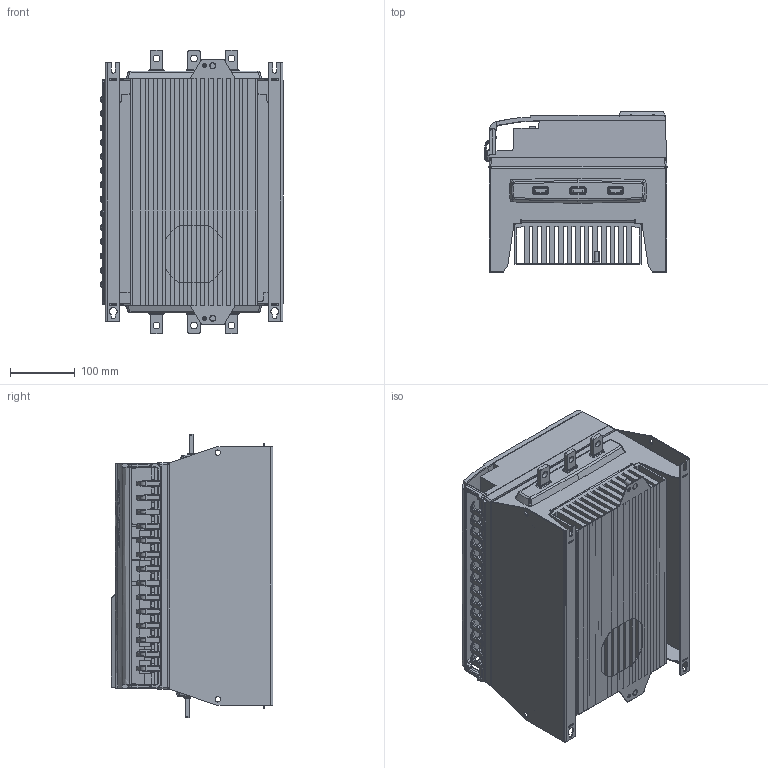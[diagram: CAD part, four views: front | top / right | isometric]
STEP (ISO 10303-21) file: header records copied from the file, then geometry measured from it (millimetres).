
FILE_DESCRIPTION (( 'STEP AP214' ), '1' );
FILE_NAME ('EMX3 G2 General Assembly Simplified, 21NOV12.STEP', '2012-11-27T00:24:47', ( '' ), ( '' ), 'SwSTEP 2.0', 'SolidWorks 2012', '' );
FILE_SCHEMA (( 'AUTOMOTIVE_DESIGN' ));
Length unit declared in the file: millimetre
Products named in the file (1): EMX3 G2 General Assembly Simplified, 21NOV12
Bounding box: 281.69 x 250.25 x 437.95 mm (x, y, z)
Volume: 11774045.2 mm3; surface area: 2509675.7 mm2
Topology: 37 solids, 37 shells, 3963 faces, 10026 edges, 6215 vertices
Faces by surface type: plane 1773, cylinder 1032, bspline 815, cone 177, torus 129, sphere 37
Entity records: 195670 total; most frequent: CARTESIAN_POINT 64374, ORIENTED_EDGE 20014, DIRECTION 15283, EDGE_CURVE 10007, VERTEX_POINT 6215, LINE 5305, VECTOR 5305, AXIS2_PLACEMENT_3D 4989
